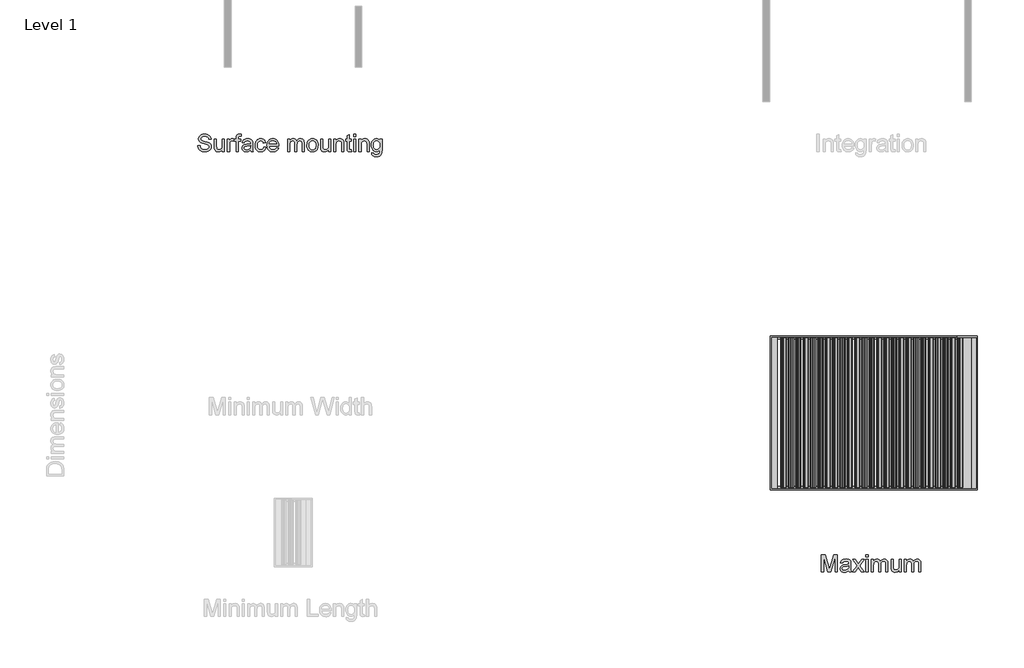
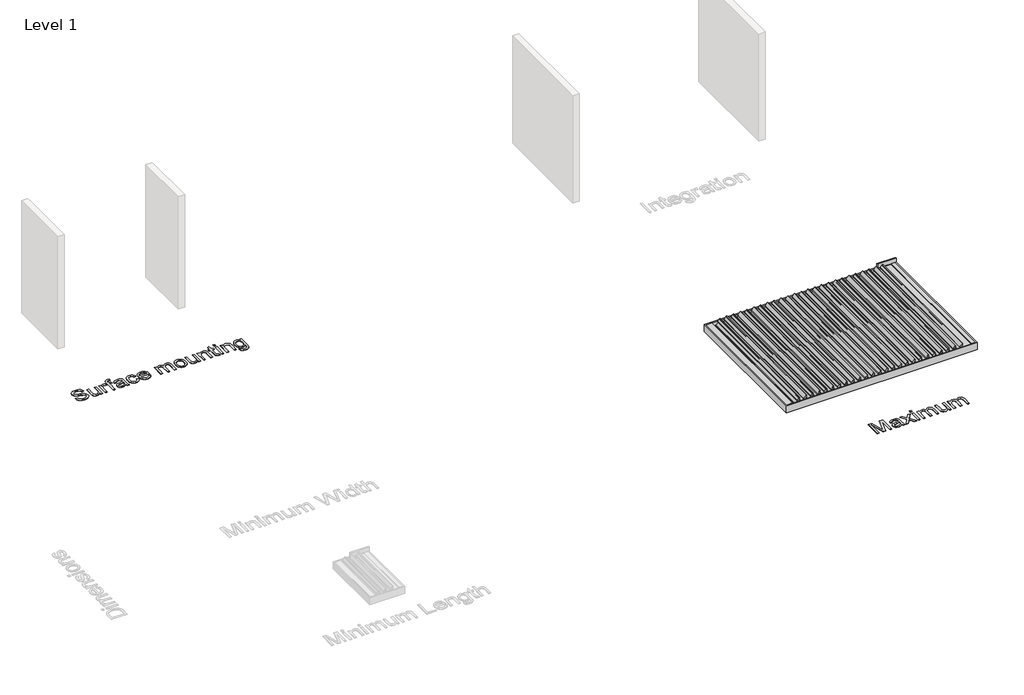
# One storey, part 3 of 12: 3 proxies.
"""IFC4 building model written with IfcOpenShell, lengths in millimetres."""

from ifc_helpers import new_model, si_unit, origin, origin_with_axes, place, context, project, spatial, polyline, outline, extrude, transform, mapped, element, save
from components import generic_models_66cc750b

model = new_model("IFC4")

# Units and contexts
model_context = context("Model", 3, world=origin())
ifc_project = project(units=[si_unit("LENGTHUNIT", "METRE", prefix="MILLI")], contexts=[model_context])

# Site, building, storey
site = spatial("IfcSite", under=ifc_project)
building = spatial("IfcBuilding", under=site)
storey = spatial("IfcBuildingStorey", under=building, Name="Level 1", Elevation=0.0)

# Proxies
placement = place(None, origin())
generic_models_shape = generic_models_66cc750b(model_context)
element("IfcBuildingElementProxy", 1, Name="Renson_Aero_Patio covers : Aero - Single", ObjectType="Renson_Aero_Patio covers : Aero - Single", at=placement, inside=storey, context=model_context, shape_type="MappedRepresentation", body=[
    mapped(generic_models_shape, transform((7693.8510454, -10798.4078371, 0.0), x_axis=(1.0, 0.0, 0.0), y_axis=(0.0, 1.0, 0.0), z_axis=(0.0, 0.0, 1.0))),
])
element("IfcBuildingElementProxy", 2, Name="500mm Arial", ObjectType="500mm Arial", at=placement, inside=storey, context=model_context, shape_type="SweptSolid", body=[
    extrude(outline(polyline([(-12071.2021834, -2981.5334316), (-12008.4169895, -2981.5334316), (-12001.2126338, -3016.3749223), (-11988.1834798, -3044.3799392), (-11967.8579995, -3066.606143), (-11938.7646651, -3084.1111946), (-11903.2027389, -3095.4695512), (-11863.4714834, -3099.2556701), (-11828.492037, -3096.3892562), (-11797.8658609, -3087.7900146), (-11773.0491547, -3074.1783808), (-11755.4981178, -3056.2747903), (-11745.0594662, -3035.7193838), (-11741.5799157, -3014.1523019), (-11744.1857465, -2993.1370429), (-11752.0032389, -2974.9728694), (-11767.8834783, -2959.4758403), (-11794.6775503, -2946.4620148), (-11886.0962261, -2922.4883714), (-11946.1069766, -2906.6234604), (-11984.5046598, -2891.5249702), (-12015.759301, -2870.4024123), (-12037.9088628, -2844.8039568), (-12051.1066294, -2815.2814267), (-12055.5058849, -2782.3866449), (-12050.064297, -2745.6137738), (-12033.7395335, -2711.3241062), (-12021.6032598, -2695.7964203), (-12006.9607899, -2682.2614286), (-11970.157262, -2661.1695275), (-11925.9807658, -2648.3396429), (-11877.0831172, -2644.0630147), (-11824.1081099, -2648.5389123), (-11777.7549785, -2661.9666052), (-11739.679192, -2684.0701817), (-11724.366104, -2698.2719596), (-11711.5362194, -2714.5737305), (-11693.7245995, -2751.5765278), (-11686.6428711, -2793.1778501), (-11749.4280649, -2793.1778501), (-11753.628051, -2773.1436098), (-11760.9550341, -2755.7152003), (-11771.4090141, -2740.8926215), (-11784.9899911, -2728.6758736), (-11801.9508839, -2719.1262702), (-11822.5446114, -2712.3051248), (-11874.6305706, -2706.8482086), (-11927.9428031, -2712.2438112), (-11948.3219328, -2718.9883144), (-11964.5164048, -2728.430619), (-11976.85578, -2739.7813114), (-11985.6696195, -2752.2509781), (-11990.9579232, -2765.8396193), (-11992.720691, -2780.5472349), (-11987.7236273, -2804.6741625), (-11972.732436, -2824.0799377), (-11958.967518, -2832.7098362), (-11937.2931371, -2841.4317051), (-11870.2159867, -2859.1513546), (-11800.9928579, -2875.9819559), (-11759.1156241, -2890.6665788), (-11723.3237717, -2913.4446057), (-11698.3537812, -2941.5569215), (-11683.6844867, -2974.6969579), (-11678.7947218, -3012.5581466), (-11684.4202507, -3051.2623981), (-11701.2968372, -3087.6673872), (-11728.7347027, -3118.9986705), (-11766.0440684, -3142.4818045), (-11810.9103433, -3157.1510991), (-11861.0189368, -3162.0408639), (-11922.5318721, -3156.7678887), (-11949.2071488, -3150.1766696), (-11973.1616316, -3140.9489629), (-11994.5409405, -3129.0694401), (-12013.4906954, -3114.5227729), (-12030.0108962, -3097.3089612), (-12044.101543, -3077.4280051), (-12055.4522354, -3055.5236979), (-12063.7525729, -3032.2398333), (-12069.0025556, -3007.5764112), (-12071.2021834, -2981.5334316)])), origin_with_axes(), (0.0, 0.0, 1.0), 5.0),
    extrude(outline(polyline([(-11357.0206034, -3154.1927147), (-11357.0206034, -3090.7943842), (-11379.7373166, -3121.9647191), (-11406.1941634, -3144.229244), (-11436.3911438, -3157.587959), (-11470.3282579, -3162.0408639), (-11500.9084487, -3158.913867), (-11529.3733181, -3149.5328761), (-11553.254991, -3135.430733), (-11570.0855923, -3118.1402792), (-11581.413292, -3097.1403486), (-11588.7862603, -3071.9097751), (-11592.4650803, -3013.5391652), (-11592.4650803, -2785.3297009), (-11529.6798865, -2785.3297009), (-11529.6798865, -2983.9859783), (-11525.8784392, -3047.9974454), (-11516.7273745, -3069.3499296), (-11501.0464045, -3085.5827226), (-11479.8778614, -3095.8374332), (-11454.2640774, -3099.2556701), (-11427.1787655, -3095.7607911), (-11401.8408931, -3085.2761543), (-11380.9482615, -3068.7674497), (-11367.1986719, -3047.2003678), (-11359.5651205, -3017.6625093), (-11357.0206034, -2977.241475), (-11357.0206034, -2785.3297009), (-11294.2354095, -2785.3297009), (-11294.2354095, -3154.1927147), (-11357.0206034, -3154.1927147)])), origin_with_axes(), (0.0, 0.0, 1.0), 5.0),
    extrude(outline(polyline([(-11207.905768, -3154.1927147), (-11207.905768, -2785.3297009), (-11152.9687234, -2785.3297009), (-11152.9687234, -2839.8988635), (-11132.6739, -2808.2610119), (-11113.9732319, -2789.6216575), (-11095.2112501, -2780.5165781), (-11074.7324857, -2777.4815516), (-11043.4625162, -2782.3253313), (-11011.7020372, -2796.8566701), (-11032.671311, -2853.1426153), (-11054.7442307, -2843.485713), (-11076.8171504, -2840.2667455), (-11095.5638037, -2843.3630856), (-11112.3177629, -2852.652106), (-11125.8527547, -2867.4286995), (-11134.9425056, -2886.9877589), (-11142.576057, -2922.0591758), (-11145.1205742, -2960.3189033), (-11145.1205742, -3154.1927147), (-11207.905768, -3154.1927147)])), origin_with_axes(), (0.0, 0.0, 1.0), 5.0),
    extrude(outline(polyline([(-10956.7649926, -3154.1927147), (-10956.7649926, -2848.1148947), (-11011.7020372, -2848.1148947), (-11011.7020372, -2785.3297009), (-10956.7649926, -2785.3297009), (-10956.7649926, -2748.1736194), (-10955.1095237, -2717.4248159), (-10950.1431167, -2695.8117487), (-10937.5125015, -2674.9344455), (-10918.0147558, -2658.4104125), (-10890.7301745, -2647.6498642), (-10854.7390526, -2644.0630147), (-10797.4720887, -2650.9301453), (-10806.6691386, -2709.7912645), (-10842.8442015, -2706.8482086), (-10866.7105459, -2709.4540394), (-10882.3915159, -2717.2715318), (-10891.0827281, -2732.2014094), (-10893.9797988, -2756.1443959), (-10893.9797988, -2785.3297009), (-10823.3464557, -2785.3297009), (-10823.3464557, -2848.1148947), (-10893.9797988, -2848.1148947), (-10893.9797988, -3154.1927147), (-10956.7649926, -3154.1927147)])), origin_with_axes(), (0.0, 0.0, 1.0), 5.0),
    extrude(outline(polyline([(-10532.9649342, -3107.1038193), (-10562.9626452, -3132.8249022), (-10593.8494044, -3149.6555034), (-10626.3303189, -3158.9445238), (-10661.1104958, -3162.0408639), (-10689.0656954, -3160.1784613), (-10713.5796654, -3154.5912535), (-10734.6524059, -3145.2792405), (-10752.283917, -3132.2424223), (-10766.2059512, -3116.3085334), (-10776.1502614, -3098.3053083), (-10782.1168475, -3078.2327469), (-10784.1057096, -3056.0908493), (-10781.1013399, -3030.0631982), (-10772.0882311, -3006.42678), (-10758.1853573, -2986.1932702), (-10740.5116931, -2970.3743445), (-10719.7416888, -2958.4181796), (-10696.5497947, -2949.7729527), (-10642.2258868, -2940.3306482), (-10578.0304786, -2930.3978343), (-10533.3328162, -2918.7482378), (-10532.9649342, -2904.768722), (-10537.2875476, -2876.7483767), (-10550.255388, -2858.4155906), (-10563.3305272, -2850.4754709), (-10579.2567519, -2844.8039568), (-10619.6624577, -2840.2667455), (-10657.0637939, -2843.2864435), (-10683.1834156, -2852.3455377), (-10700.9950355, -2869.0994969), (-10713.4723665, -2895.2037901), (-10776.2575603, -2887.3556409), (-10765.3590562, -2853.019988), (-10749.0956064, -2826.041975), (-10725.9496975, -2805.4099265), (-10694.4038164, -2790.1121668), (-10655.8221922, -2780.6392054), (-10611.5690538, -2777.4815516), (-10569.1246686, -2780.2713234), (-10535.4787945, -2788.6406388), (-10510.1102652, -2801.2252688), (-10492.4979147, -2816.6609841), (-10480.8176614, -2835.7448626), (-10473.2454236, -2859.2739819), (-10470.1797403, -2914.2110265), (-10470.1797403, -2992.3246368), (-10466.9914297, -3101.4016484), (-10462.2702774, -3128.364333), (-10454.4834419, -3154.1927147), (-10517.2686357, -3154.1927147), (-10527.3240769, -3132.3650497), (-10532.9649342, -3107.1038193)]), holes=[polyline([(-10532.9649342, -2981.5334316), (-10575.1487363, -2991.9874117), (-10634.2551102, -3000.7859227), (-10688.2724498, -3010.9639913), (-10702.3286077, -3017.9230923), (-10712.7366025, -3027.518681), (-10719.1745374, -3039.0149934), (-10721.3205157, -3051.6762654), (-10716.6453487, -3070.3462766), (-10702.6198476, -3085.6440363), (-10679.5505808, -3095.8527616), (-10647.7441167, -3099.2556701), (-10614.0216005, -3095.5002081), (-10584.2231588, -3084.233822), (-10560.0655745, -3067.6331469), (-10543.2656301, -3047.8748181), (-10535.8160196, -3027.518681), (-10533.3328162, -2999.3143947), (-10532.9649342, -2981.5334316)])]), origin_with_axes(), (0.0, 0.0, 1.0), 5.0),
    extrude(outline(polyline([(-10148.4056219, -3020.7741778), (-10085.6204281, -3028.622327), (-10092.4492376, -3058.2483239), (-10103.1254797, -3084.4637482), (-10117.6491543, -3107.2685998), (-10136.0202614, -3126.6628787), (-10157.464716, -3142.1407473), (-10181.2084331, -3153.1963676), (-10207.2514127, -3159.8297399), (-10235.5936548, -3162.0408639), (-10270.8068595, -3158.9560201), (-10302.3795653, -3149.7014887), (-10330.3117722, -3134.2772696), (-10354.6034802, -3112.6833629), (-10374.2660064, -3085.3259716), (-10388.310668, -3052.6112988), (-10396.737465, -3014.5393444), (-10399.5463973, -2971.1101084), (-10394.7486029, -2915.2380304), (-10380.3552199, -2866.8155628), (-10369.502701, -2845.8654496), (-10356.1363218, -2827.7127724), (-10340.2560824, -2812.3575312), (-10321.8619826, -2799.799726), (-10280.8584686, -2783.0610952), (-10236.4520461, -2777.4815516), (-10208.5964813, -2779.3976037), (-10183.4003967, -2785.1457599), (-10160.8637924, -2794.7260202), (-10140.9866683, -2808.1383846), (-10124.1062497, -2825.0762848), (-10110.5597616, -2845.2331524), (-10100.3472042, -2868.6089875), (-10093.4685773, -2895.2037901), (-10156.2537711, -2903.0519393), (-10167.6427846, -2875.6600591), (-10185.3777624, -2856.0243576), (-10208.477686, -2844.2061485), (-10235.9615367, -2840.2667455), (-10257.2948604, -2842.2057902), (-10276.5358551, -2848.0229242), (-10293.6845211, -2857.7181476), (-10308.7408581, -2871.2914604), (-10320.9997592, -2889.0570951), (-10329.7561171, -2911.3292842), (-10335.0099318, -2938.1080278), (-10336.7612034, -2969.3933258), (-10335.0482529, -3001.1499726), (-10329.9094013, -3028.2391166), (-10321.3446486, -3050.6607578), (-10309.3539948, -3068.4148962), (-10294.5965618, -3081.9077348), (-10277.7314716, -3091.5454766), (-10258.7587241, -3097.3281217), (-10237.6783194, -3099.2556701), (-10205.1667481, -3094.4425473), (-10178.5106318, -3080.003179), (-10167.730923, -3069.0816823), (-10159.120185, -3055.5696832), (-10148.4056219, -3020.7741778)])), origin_with_axes(), (0.0, 0.0, 1.0), 5.0),
    extrude(outline(polyline([(-9772.4302228, -3044.3186255), (-9710.8713023, -3052.1667747), (-9720.3097747, -3076.8225326), (-9733.0515209, -3098.5505629), (-9749.0965409, -3117.3508657), (-9768.4448345, -3133.223441), (-9790.8971326, -3145.8310635), (-9816.2541655, -3154.8365082), (-9844.5159334, -3160.239775), (-9875.6824361, -3162.0408639), (-9914.6396066, -3158.9330275), (-9949.3508057, -3149.6095182), (-9979.8160334, -3134.070336), (-10006.0352898, -3112.3154809), (-10027.1195266, -3084.9504254), (-10042.1796958, -3052.580642), (-10051.2157973, -3015.2061305), (-10054.2278311, -2972.8268911), (-10051.1851405, -2929.0106126), (-10042.0570685, -2890.3906673), (-10026.8436151, -2856.9670552), (-10005.5447804, -2828.7397763), (-9979.3945019, -2806.314303), (-9949.6267172, -2790.2961078), (-9916.2414261, -2780.6851907), (-9879.2386288, -2777.4815516), (-9843.4276158, -2780.6775265), (-9811.0425039, -2790.265451), (-9782.0832931, -2806.2453251), (-9756.5499834, -2828.617149), (-9735.7071691, -2856.7831142), (-9720.8194446, -2890.1454127), (-9711.8868099, -2928.7040443), (-9708.909265, -2972.4590091), (-9709.277147, -2989.3815809), (-9991.4426373, -2989.3815809), (-9987.8059705, -3014.4358776), (-9980.57479, -3036.3785058), (-9969.7490959, -3055.2094654), (-9955.3288881, -3070.9287565), (-9938.1112443, -3083.3217812), (-9918.8932422, -3092.1739417), (-9897.6748817, -3097.485238), (-9874.4561628, -3099.2556701), (-9841.0402149, -3095.975389), (-9812.8972423, -3086.1345456), (-9790.0272449, -3069.1200033), (-9772.4302228, -3044.3186255)]), holes=[polyline([(-9991.4426373, -2926.596387), (-9771.6944588, -2926.596387), (-9780.1864016, -2893.4256938), (-9796.8330618, -2869.6973051), (-9813.954903, -2856.8214353), (-9833.4373204, -2847.6243854), (-9855.2803138, -2842.1061555), (-9879.4838834, -2840.2667455), (-9921.8056413, -2846.137529), (-9940.2189016, -2853.4760084), (-9956.8004161, -2863.7498795), (-9970.7147861, -2876.4839615), (-9981.126613, -2891.2030734), (-9988.0358967, -2907.9072153), (-9991.4426373, -2926.596387)])]), origin_with_axes(), (0.0, 0.0, 1.0), 5.0),
    extrude(outline(polyline([(-9449.9203404, -3154.1927147), (-9449.9203404, -2785.3297009), (-9387.1351465, -2785.3297009), (-9387.1351465, -2846.0302301), (-9368.2505375, -2818.1478405), (-9343.9703258, -2796.3048471), (-9315.122246, -2782.1873755), (-9282.5340326, -2777.4815516), (-9247.6158999, -2782.279346), (-9219.6262114, -2796.6727291), (-9198.7182513, -2819.711339), (-9185.0453039, -2850.444814), (-9162.1599781, -2818.5233867), (-9136.0556848, -2795.7223672), (-9106.7324241, -2782.0417555), (-9074.190196, -2777.4815516), (-9049.0554251, -2779.3784432), (-9026.9940017, -2785.0691178), (-9008.0059258, -2794.5535755), (-8992.0911974, -2807.8318163), (-8979.5103996, -2825.0571243), (-8970.5241154, -2846.3827837), (-8965.1323449, -2871.8087945), (-8963.3350881, -2901.3351567), (-8963.3350881, -3154.1927147), (-9026.1202819, -3154.1927147), (-9026.1202819, -2928.3131697), (-9027.5764815, -2896.9972148), (-9031.9450802, -2875.8899854), (-9040.1304546, -2861.4352886), (-9053.0369813, -2850.076932), (-9069.6376563, -2842.7192921), (-9088.9054758, -2840.2667455), (-9106.6979352, -2841.8379082), (-9122.9192319, -2846.5513962), (-9137.569366, -2854.4072097), (-9150.6483373, -2865.4053485), (-9161.4050536, -2879.8677094), (-9169.0884223, -2898.1161892), (-9173.6984436, -2920.1507879), (-9175.2351173, -2945.9715054), (-9175.2351173, -3154.1927147), (-9238.0203112, -3154.1927147), (-9238.0203112, -2921.3234118), (-9241.6531459, -2885.8227992), (-9252.55165, -2860.5002552), (-9260.9784469, -2851.6480947), (-9271.727499, -2845.3251229), (-9300.1923683, -2840.2667455), (-9324.3806095, -2843.6389971), (-9346.6681271, -2853.755752), (-9365.0622268, -2870.3717554), (-9377.5702147, -2893.2417528), (-9384.7439136, -2924.9715749), (-9387.1351465, -2968.1670525), (-9387.1351465, -3154.1927147), (-9449.9203404, -3154.1927147)])), origin_with_axes(), (0.0, 0.0, 1.0), 5.0),
    extrude(outline(polyline([(-8884.8535958, -2969.7612078), (-8881.4583515, -2921.9901979), (-8871.2726188, -2880.8257355), (-8854.2963976, -2846.2678205), (-8830.5296878, -2818.3164531), (-8806.6020297, -2800.4511837), (-8780.1911682, -2787.690277), (-8751.2971031, -2780.033733), (-8719.9198346, -2777.4815516), (-8685.2814455, -2780.5893881), (-8653.9616586, -2789.9128974), (-8625.9604738, -2805.4520796), (-8601.2778912, -2827.2069347), (-8581.1325198, -2854.4416986), (-8566.7429689, -2886.4206075), (-8558.1092383, -2923.1436612), (-8555.2313281, -2964.6108599), (-8560.3203624, -3028.0398472), (-8566.6816552, -3054.0751626), (-8575.5874652, -3076.3243591), (-8586.9266613, -3095.5423612), (-8600.5881124, -3112.4840935), (-8616.5718187, -3127.149556), (-8634.8777801, -3139.5387486), (-8675.6053826, -3156.4153351), (-8719.9198346, -3162.0408639), (-8755.0640615, -3158.9445238), (-8786.6750883, -3149.6555034), (-8814.7529152, -3134.1738028), (-8839.2975421, -3112.4994219), (-8859.2283156, -3085.0002428), (-8873.4645824, -3052.0441474), (-8882.0063424, -3013.6311357), (-8884.8535958, -2969.7612078)]), holes=[polyline([(-8822.068402, -2969.6385805), (-8820.2519846, -3000.0923119), (-8814.8027325, -3026.4610203), (-8805.7206458, -3048.7447057), (-8793.0057243, -3066.9433682), (-8777.5393521, -3081.0800003), (-8760.2029131, -3091.1775946), (-8740.9964073, -3097.2361512), (-8719.9198346, -3099.2556701), (-8698.9505609, -3097.2246549), (-8679.8206971, -3091.1316094), (-8662.5302434, -3080.9765335), (-8647.0791996, -3066.7594272), (-8634.3642781, -3048.3806558), (-8625.2821914, -3025.7405847), (-8619.8329393, -2998.8392138), (-8618.016522, -2967.6765432), (-8619.8444356, -2938.188502), (-8625.3281766, -2912.5095723), (-8634.4677449, -2890.6397541), (-8647.2631406, -2872.5790474), (-8662.7716659, -2858.4424153), (-8680.0506234, -2848.344821), (-8699.100013, -2842.2862644), (-8719.9198346, -2840.2667455), (-8740.9964073, -2842.2786002), (-8760.2029131, -2848.3141641), (-8777.5393521, -2858.3734374), (-8793.0057243, -2872.4564201), (-8805.7206458, -2890.6014331), (-8814.8027325, -2912.8467975), (-8820.2519846, -2939.1925133), (-8822.068402, -2969.6385805)])]), origin_with_axes(), (0.0, 0.0, 1.0), 5.0),
    extrude(outline(polyline([(-8249.1535081, -3154.1927147), (-8249.1535081, -3090.7943842), (-8271.8702213, -3121.9647191), (-8298.3270682, -3144.229244), (-8328.5240486, -3157.587959), (-8362.4611626, -3162.0408639), (-8393.0413535, -3158.913867), (-8421.5062229, -3149.5328761), (-8445.3878957, -3135.430733), (-8462.218497, -3118.1402792), (-8473.5461968, -3097.1403486), (-8480.9191651, -3071.9097751), (-8484.597985, -3013.5391652), (-8484.597985, -2785.3297009), (-8421.8127912, -2785.3297009), (-8421.8127912, -2983.9859783), (-8418.0113439, -3047.9974454), (-8408.8602793, -3069.3499296), (-8393.1793092, -3085.5827226), (-8372.0107661, -3095.8374332), (-8346.3969822, -3099.2556701), (-8319.3116703, -3095.7607911), (-8293.9737979, -3085.2761543), (-8273.0811662, -3068.7674497), (-8259.3315767, -3047.2003678), (-8251.6980253, -3017.6625093), (-8249.1535081, -2977.241475), (-8249.1535081, -2785.3297009), (-8186.3683143, -2785.3297009), (-8186.3683143, -3154.1927147), (-8249.1535081, -3154.1927147)])), origin_with_axes(), (0.0, 0.0, 1.0), 5.0),
    extrude(outline(polyline([(-8100.0386728, -3154.1927147), (-8100.0386728, -2785.3297009), (-8037.2534789, -2785.3297009), (-8037.2534789, -2836.8331802), (-8015.4411423, -2810.8668427), (-7989.2448785, -2792.3194588), (-7958.6646877, -2781.1910284), (-7923.7005697, -2777.4815516), (-7892.7524969, -2780.4705929), (-7864.4102548, -2789.4377165), (-7840.7738366, -2803.2639481), (-7823.9432354, -2820.8303134), (-7812.5235651, -2842.0908271), (-7805.11994, -2866.9995038), (-7801.809002, -2927.700033), (-7801.809002, -3154.1927147), (-7864.5941958, -3154.1927147), (-7864.5941958, -2936.1613189), (-7866.402949, -2903.6957328), (-7871.8292084, -2880.6111376), (-7881.8386644, -2864.0717763), (-7897.3970071, -2851.2418917), (-7917.3392769, -2843.010532), (-7940.5005142, -2840.2667455), (-7959.5652322, -2841.8072513), (-7977.2733853, -2846.4287689), (-7993.6249735, -2854.1312982), (-8008.6199969, -2864.9148392), (-8021.1471453, -2880.0056652), (-8030.0951084, -2900.6300495), (-8035.4638863, -2926.7879922), (-8037.2534789, -2958.4794933), (-8037.2534789, -3154.1927147), (-8100.0386728, -3154.1927147)])), origin_with_axes(), (0.0, 0.0, 1.0), 5.0),
    extrude(outline(polyline([(-7582.0608235, -3101.8308441), (-7574.2126743, -3156.0321247), (-7621.1789424, -3162.0408639), (-7651.3146091, -3159.4350331), (-7673.7860677, -3151.6175407), (-7689.6663071, -3139.5694054), (-7700.0283167, -3124.2716458), (-7705.7304876, -3097.9987399), (-7707.6312112, -3053.025166), (-7707.6312112, -2848.1148947), (-7754.7201066, -2848.1148947), (-7754.7201066, -2785.3297009), (-7707.6312112, -2785.3297009), (-7707.6312112, -2695.6891214), (-7644.8460174, -2658.7782945), (-7644.8460174, -2785.3297009), (-7582.0608235, -2785.3297009), (-7582.0608235, -2848.1148947), (-7644.8460174, -2848.1148947), (-7644.8460174, -3051.1857561), (-7641.5350794, -3083.5593716), (-7630.8051879, -3095.0250272), (-7609.4067185, -3099.2556701), (-7582.0608235, -3101.8308441)])), origin_with_axes(), (0.0, 0.0, 1.0), 5.0),
    extrude(outline(polyline([(-7519.2756297, -2714.6963578), (-7519.2756297, -2651.911164), (-7456.4904359, -2651.911164), (-7456.4904359, -2714.6963578), (-7519.2756297, -2714.6963578)])), origin_with_axes(), (0.0, 0.0, 1.0), 5.0),
    extrude(outline(polyline([(-7519.2756297, -3154.1927147), (-7519.2756297, -2785.3297009), (-7456.4904359, -2785.3297009), (-7456.4904359, -3154.1927147), (-7519.2756297, -3154.1927147)])), origin_with_axes(), (0.0, 0.0, 1.0), 5.0),
    extrude(outline(polyline([(-7362.3126451, -3154.1927147), (-7362.3126451, -2785.3297009), (-7299.5274512, -2785.3297009), (-7299.5274512, -2836.8331802), (-7277.7151146, -2810.8668427), (-7251.5188509, -2792.3194588), (-7220.93866, -2781.1910284), (-7185.9745421, -2777.4815516), (-7155.0264692, -2780.4705929), (-7126.6842272, -2789.4377165), (-7103.047809, -2803.2639481), (-7086.2172077, -2820.8303134), (-7074.7975374, -2842.0908271), (-7067.3939123, -2866.9995038), (-7064.0829743, -2927.700033), (-7064.0829743, -3154.1927147), (-7126.8681682, -3154.1927147), (-7126.8681682, -2936.1613189), (-7128.6769213, -2903.6957328), (-7134.1031807, -2880.6111376), (-7144.1126367, -2864.0717763), (-7159.6709794, -2851.2418917), (-7179.6132492, -2843.010532), (-7202.7744865, -2840.2667455), (-7221.8392045, -2841.8072513), (-7239.5473576, -2846.4287689), (-7255.8989459, -2854.1312982), (-7270.8939693, -2864.9148392), (-7283.4211176, -2880.0056652), (-7292.3690808, -2900.6300495), (-7297.7378586, -2926.7879922), (-7299.5274512, -2958.4794933), (-7299.5274512, -3154.1927147), (-7362.3126451, -3154.1927147)])), origin_with_axes(), (0.0, 0.0, 1.0), 5.0),
    extrude(outline(polyline([(-6993.4496313, -3185.5853116), (-6930.6644374, -3193.4334609), (-6923.7359932, -3213.0538339), (-6910.3083003, -3226.5428404), (-6883.9127672, -3237.0274773), (-6849.3625165, -3240.5223562), (-6812.5130033, -3236.5676248), (-6785.1057947, -3224.7034305), (-6766.0985582, -3205.696194), (-6754.4489617, -3180.3123364), (-6751.0460533, -3153.3036666), (-6750.1570051, -3107.1038193), (-6771.0496368, -3127.7052111), (-6794.3641582, -3142.4204909), (-6820.1005694, -3151.2496587), (-6848.2588705, -3154.1927147), (-6882.6826618, -3150.7668136), (-6912.9907732, -3140.4891104), (-6939.1832049, -3123.359605), (-6961.2599567, -3099.3782974), (-6978.7765046, -3070.6068597), (-6991.2883245, -3039.1069639), (-6998.7954165, -3004.8786099), (-7001.2977805, -2967.9217978), (-6996.8065545, -2917.2307246), (-6983.3328764, -2870.6170101), (-6961.3519272, -2831.1156809), (-6947.3494187, -2815.1702956), (-6931.3388877, -2801.7617633), (-6913.5770852, -2791.1391707), (-6894.320762, -2783.5516046), (-6873.5699182, -2778.9990649), (-6851.3245538, -2777.4815516), (-6821.962972, -2780.9151169), (-6795.31452, -2791.2158128), (-6771.3791977, -2808.3836392), (-6750.1570051, -2832.4185963), (-6750.1570051, -2785.3297009), (-6687.3718113, -2785.3297009), (-6687.3718113, -3103.7928814), (-6691.6637679, -3177.3232952), (-6697.0287136, -3204.6730222), (-6704.5396377, -3225.7457628), (-6726.7198563, -3257.8587953), (-6758.9248593, -3282.4609037), (-6778.6103782, -3291.5813115), (-6800.4495395, -3298.0958885), (-6850.5887898, -3303.3075501), (-6881.3490895, -3301.4719722), (-6909.0053849, -3295.9652386), (-6933.557676, -3286.7873492), (-6955.0059628, -3273.9383041), (-6972.3309055, -3257.4027749), (-6984.5131645, -3237.165433), (-6991.5527397, -3213.2262786), (-6993.4496313, -3185.5853116)]), holes=[polyline([(-6938.5125866, -2963.6298412), (-6936.8379571, -2994.6737167), (-6931.8140687, -3021.2187019), (-6923.4409212, -3043.2647969), (-6911.7185147, -3060.8120016), (-6897.4669195, -3074.1975413), (-6881.5062058, -3083.7586411), (-6863.8363737, -3089.4953009), (-6844.4574232, -3091.4075209), (-6825.2700779, -3089.5067972), (-6807.6845521, -3083.8046263), (-6791.7008458, -3074.3010081), (-6777.3189591, -3060.9959426), (-6765.4356042, -3043.6211825), (-6756.9474936, -3021.9084806), (-6751.8546272, -2995.8578368), (-6750.1570051, -2965.4692512), (-6751.9044446, -2936.349092), (-6757.146763, -2911.0380443), (-6765.8839604, -2889.5361081), (-6778.1160367, -2871.8432834), (-6792.8083239, -2858.0285481), (-6808.9261538, -2848.16088), (-6826.4695265, -2842.2402791), (-6845.4384419, -2840.2667455), (-6864.0892926, -2842.2096223), (-6881.291608, -2848.0382526), (-6897.045388, -2857.7526366), (-6911.3506327, -2871.3527741), (-6923.2339875, -2888.7773515), (-6931.7220982, -2909.9650552), (-6936.8149645, -2934.9158851), (-6938.5125866, -2963.6298412)])]), origin_with_axes(), (0.0, 0.0, 1.0), 5.0),
])
element("IfcBuildingElementProxy", 3, Name="500mm Arial", ObjectType="500mm Arial", at=placement, inside=storey, context=model_context, shape_type="SweptSolid", body=[
    extrude(outline(polyline([(6157.3395326, -15454.1927147), (6157.3395326, -14951.911164), (6265.3742119, -14951.911164), (6368.1359159, -15305.9362707), (6388.8599349, -15379.8805517), (6411.3007366, -15299.8049041), (6512.345658, -14951.911164), (6620.3803372, -14951.911164), (6620.3803372, -15454.1927147), (6557.5951434, -15454.1927147), (6557.5951434, -15014.6963578), (6431.411619, -15454.1927147), (6346.3082508, -15454.1927147), (6220.1247265, -15014.6963578), (6220.1247265, -15454.1927147), (6157.3395326, -15454.1927147)])), origin_with_axes(), (0.0, 0.0, 1.0), 5.0),
    extrude(outline(polyline([(6957.8507541, -15407.1038193), (6927.8530431, -15432.8249022), (6896.9662839, -15449.6555034), (6864.4853695, -15458.9445238), (6829.7051925, -15462.0408639), (6801.749993, -15460.1784613), (6777.2360229, -15454.5912535), (6756.1632824, -15445.2792405), (6738.5317714, -15432.2424223), (6724.6097371, -15416.3085334), (6714.6654269, -15398.3053083), (6708.6988408, -15378.2327469), (6706.7099788, -15356.0908493), (6709.7143484, -15330.0631982), (6718.7274573, -15306.42678), (6732.630331, -15286.1932702), (6750.3039952, -15270.3743445), (6771.0739995, -15258.4181796), (6794.2658936, -15249.7729527), (6848.5898016, -15240.3306482), (6912.7852097, -15230.3978343), (6957.4828722, -15218.7482378), (6957.8507541, -15204.768722), (6953.5281407, -15176.7483767), (6940.5603004, -15158.4155906), (6927.4851611, -15150.4754709), (6911.5589364, -15144.8039568), (6871.1532306, -15140.2667455), (6833.7518944, -15143.2864435), (6807.6322728, -15152.3455377), (6789.8206529, -15169.0994969), (6777.3433218, -15195.2037901), (6714.558128, -15187.3556409), (6725.4566321, -15153.019988), (6741.720082, -15126.041975), (6764.8659908, -15105.4099265), (6796.4118719, -15090.1121668), (6834.9934962, -15080.6392054), (6879.2466345, -15077.4815516), (6921.6910197, -15080.2713234), (6955.3368938, -15088.6406388), (6980.7054231, -15101.2252688), (6998.3177736, -15116.6609841), (7009.998027, -15135.7448626), (7017.5702647, -15159.2739819), (7020.635948, -15214.2110265), (7020.635948, -15292.3246368), (7023.8242586, -15401.4016484), (7028.5454109, -15428.364333), (7036.3322465, -15454.1927147), (6973.5470526, -15454.1927147), (6963.4916114, -15432.3650497), (6957.8507541, -15407.1038193)]), holes=[polyline([(6957.8507541, -15281.5334316), (6915.666952, -15291.9874117), (6856.5605781, -15300.7859227), (6802.5432385, -15310.9639913), (6788.4870806, -15317.9230923), (6778.0790858, -15327.518681), (6771.6411509, -15339.0149934), (6769.4951726, -15351.6762654), (6774.1703396, -15370.3462766), (6788.1958407, -15385.6440363), (6811.2651075, -15395.8527616), (6843.0715717, -15399.2556701), (6876.7940879, -15395.5002081), (6906.5925295, -15384.233822), (6930.7501138, -15367.6331469), (6947.5500583, -15347.8748181), (6954.9996687, -15327.518681), (6957.4828722, -15299.3143947), (6957.8507541, -15281.5334316)])]), origin_with_axes(), (0.0, 0.0, 1.0), 5.0),
    extrude(outline(polyline([(7067.7248434, -15454.1927147), (7201.8791443, -15268.7801891), (7075.5729926, -15085.3297009), (7151.1114289, -15085.3297009), (7212.0572128, -15173.6213797), (7240.5067538, -15215.3146725), (7265.1548475, -15181.2242743), (7334.5619172, -15085.3297009), (7410.1003536, -15085.3297009), (7277.4175806, -15268.7801891), (7405.1952603, -15454.1927147), (7329.6568239, -15454.1927147), (7252.7694869, -15342.7244702), (7238.6673438, -15322.3683331), (7143.2632797, -15454.1927147), (7067.7248434, -15454.1927147)])), origin_with_axes(), (0.0, 0.0, 1.0), 5.0),
    extrude(outline(polyline([(7460.1323049, -15454.1927147), (7460.1323049, -15085.3297009), (7522.9174987, -15085.3297009), (7522.9174987, -15454.1927147), (7460.1323049, -15454.1927147)])), origin_with_axes(), (0.0, 0.0, 1.0), 5.0),
    extrude(outline(polyline([(7460.1323049, -15014.6963578), (7460.1323049, -14951.911164), (7522.9174987, -14951.911164), (7522.9174987, -15014.6963578), (7460.1323049, -15014.6963578)])), origin_with_axes(), (0.0, 0.0, 1.0), 5.0),
    extrude(outline(polyline([(7617.0952895, -15454.1927147), (7617.0952895, -15085.3297009), (7679.8804833, -15085.3297009), (7679.8804833, -15146.0302301), (7698.7650924, -15118.1478405), (7723.0453041, -15096.3048471), (7751.8933839, -15082.1873755), (7784.4815973, -15077.4815516), (7819.39973, -15082.279346), (7847.3894185, -15096.6727291), (7868.2973785, -15119.711339), (7881.970326, -15150.444814), (7904.8556518, -15118.5233867), (7930.9599451, -15095.7223672), (7960.2832058, -15082.0417555), (7992.8254339, -15077.4815516), (8017.9602048, -15079.3784432), (8040.0216282, -15085.0691178), (8059.0097041, -15094.5535755), (8074.9244325, -15107.8318163), (8087.5052303, -15125.0571243), (8096.4915145, -15146.3827837), (8101.883285, -15171.8087945), (8103.6805418, -15201.3351567), (8103.6805418, -15454.1927147), (8040.8953479, -15454.1927147), (8040.8953479, -15228.3131697), (8039.4391484, -15196.9972148), (8035.0705497, -15175.8899854), (8026.8851753, -15161.4352886), (8013.9786486, -15150.076932), (7997.3779736, -15142.7192921), (7978.1101541, -15140.2667455), (7960.3176947, -15141.8379082), (7944.096398, -15146.5513962), (7929.4462639, -15154.4072097), (7916.3672926, -15165.4053485), (7905.6105763, -15179.8677094), (7897.9272076, -15198.1161892), (7893.3171863, -15220.1507879), (7891.7805126, -15245.9715054), (7891.7805126, -15454.1927147), (7828.9953187, -15454.1927147), (7828.9953187, -15221.3234118), (7825.362484, -15185.8227992), (7814.4639799, -15160.5002552), (7806.037183, -15151.6480947), (7795.2881309, -15145.3251229), (7766.8232615, -15140.2667455), (7742.6350204, -15143.6389971), (7720.3475028, -15153.755752), (7701.9534031, -15170.3717554), (7689.4454152, -15193.2417528), (7682.2717163, -15224.9715749), (7679.8804833, -15268.1670525), (7679.8804833, -15454.1927147), (7617.0952895, -15454.1927147)])), origin_with_axes(), (0.0, 0.0, 1.0), 5.0),
    extrude(outline(polyline([(8433.3028095, -15454.1927147), (8433.3028095, -15390.7943842), (8410.5860963, -15421.9647191), (8384.1292494, -15444.229244), (8353.932269, -15457.587959), (8319.995155, -15462.0408639), (8289.4149641, -15458.913867), (8260.9500947, -15449.5328761), (8237.0684219, -15435.430733), (8220.2378206, -15418.1402792), (8208.9101208, -15397.1403486), (8201.5371525, -15371.9097751), (8197.8583326, -15313.5391652), (8197.8583326, -15085.3297009), (8260.6435264, -15085.3297009), (8260.6435264, -15283.9859783), (8264.4449737, -15347.9974454), (8273.5960383, -15369.3499296), (8289.2770084, -15385.5827226), (8310.4455515, -15395.8374332), (8336.0593354, -15399.2556701), (8363.1446473, -15395.7607911), (8388.4825197, -15385.2761543), (8409.3751514, -15368.7674497), (8423.1247409, -15347.2003678), (8430.7582923, -15317.6625093), (8433.3028095, -15277.241475), (8433.3028095, -15085.3297009), (8496.0880033, -15085.3297009), (8496.0880033, -15454.1927147), (8433.3028095, -15454.1927147)])), origin_with_axes(), (0.0, 0.0, 1.0), 5.0),
    extrude(outline(polyline([(8582.4176448, -15454.1927147), (8582.4176448, -15085.3297009), (8645.2028387, -15085.3297009), (8645.2028387, -15146.0302301), (8664.0874478, -15118.1478405), (8688.3676595, -15096.3048471), (8717.2157392, -15082.1873755), (8749.8039527, -15077.4815516), (8784.7220854, -15082.279346), (8812.7117738, -15096.6727291), (8833.6197339, -15119.711339), (8847.2926814, -15150.444814), (8870.1780072, -15118.5233867), (8896.2823004, -15095.7223672), (8925.6055611, -15082.0417555), (8958.1477893, -15077.4815516), (8983.2825602, -15079.3784432), (9005.3439836, -15085.0691178), (9024.3320595, -15094.5535755), (9040.2467878, -15107.8318163), (9052.8275857, -15125.0571243), (9061.8138698, -15146.3827837), (9067.2056403, -15171.8087945), (9069.0028971, -15201.3351567), (9069.0028971, -15454.1927147), (9006.2177033, -15454.1927147), (9006.2177033, -15228.3131697), (9004.7615037, -15196.9972148), (9000.392905, -15175.8899854), (8992.2075306, -15161.4352886), (8979.301004, -15150.076932), (8962.7003289, -15142.7192921), (8943.4325094, -15140.2667455), (8925.64005, -15141.8379082), (8909.4187533, -15146.5513962), (8894.7686193, -15154.4072097), (8881.6896479, -15165.4053485), (8870.9329317, -15179.8677094), (8863.2495629, -15198.1161892), (8858.6395417, -15220.1507879), (8857.1028679, -15245.9715054), (8857.1028679, -15454.1927147), (8794.3176741, -15454.1927147), (8794.3176741, -15221.3234118), (8790.6848394, -15185.8227992), (8779.7863353, -15160.5002552), (8771.3595383, -15151.6480947), (8760.6104863, -15145.3251229), (8732.1456169, -15140.2667455), (8707.9573757, -15143.6389971), (8685.6698582, -15153.755752), (8667.2757584, -15170.3717554), (8654.7677706, -15193.2417528), (8647.5940717, -15224.9715749), (8645.2028387, -15268.1670525), (8645.2028387, -15454.1927147), (8582.4176448, -15454.1927147)])), origin_with_axes(), (0.0, 0.0, 1.0), 5.0),
])

save(model, "model.ifc")
